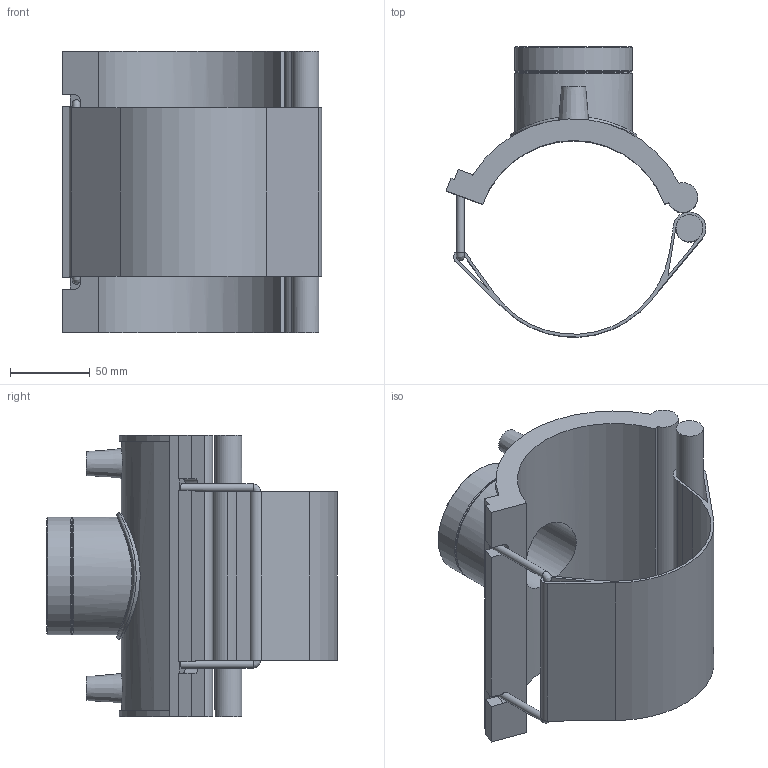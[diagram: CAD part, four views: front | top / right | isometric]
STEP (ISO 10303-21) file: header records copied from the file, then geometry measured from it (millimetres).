
FILE_DESCRIPTION(/* description */ ('PLASSON TRANSITION SADDLE 4''''DIPS x 2"NPT'),/* implementation_level */ '2;1');
FILE_NAME(/* name */ 'C:\Dropbox\KIMPROJECTS-Inventor 2019\99-16-3568-Processing Inch\ASTM ElectroFusion 2021\5938D\5938D00304070.ipt.stp',/* time_stamp */ '2021-08-30T09:51:59+03:00',/* author */ ('KIM'),/* organization */ (''),/* preprocessor_version */ 'ST-DEVELOPER v17.2',/* originating_system */ 'Autodesk Inventor 2019',/* authorisation */ '');
FILE_SCHEMA (('AUTOMOTIVE_DESIGN { 1 0 10303 214 3 1 1 }'));
Length unit declared in the file: inch
Products named in the file (1): 5938D00304070
Bounding box: 162.55 x 181.9 x 176.02 mm (x, y, z)
Volume: 615160.9 mm3; surface area: 168757.7 mm2
Topology: 1 solids, 1 shells, 82 faces, 214 edges, 140 vertices
Faces by surface type: plane 44, cylinder 30, cone 5, torus 2, bspline 1
Full cylindrical faces by diameter (mm): 4 x2, 4.852 x2, 10 x2, 16.889 x1, 45.325 x1, 56.656 x1, 72.653 x1, 73.653 x2, 79.318 x1
Entity records: 3027 total; most frequent: CARTESIAN_POINT 894, DIRECTION 442, ORIENTED_EDGE 430, EDGE_CURVE 215, AXIS2_PLACEMENT_3D 160, VERTEX_POINT 140, LINE 122, VECTOR 122
